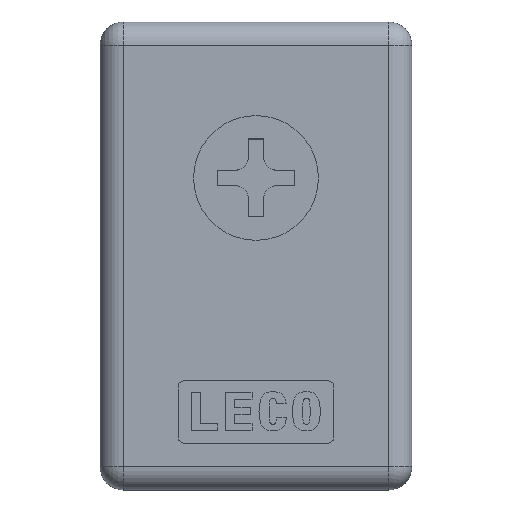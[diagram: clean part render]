
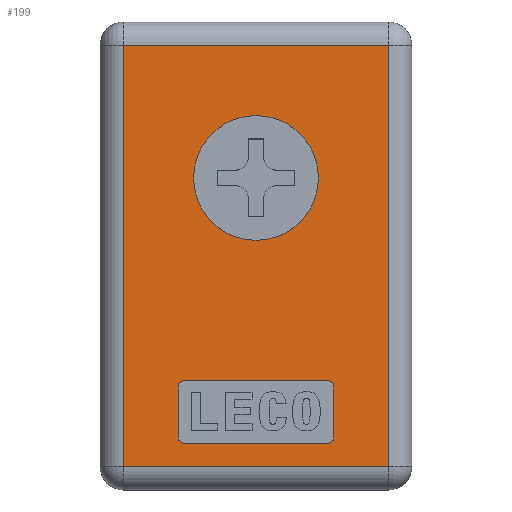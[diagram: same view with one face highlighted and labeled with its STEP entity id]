
A CAD part, top view. The second image highlights one B-rep face of the part: STEP entity #199.
In plain terms, the highlighted planar face has unit normal (0, 0, 1).
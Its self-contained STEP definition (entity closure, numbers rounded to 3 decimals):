
#199=ADVANCED_FACE('',(#563,#564,#565),#566,.F.);
#563=FACE_BOUND('',#1100,.T.);
#564=FACE_BOUND('',#1101,.T.);
#565=FACE_OUTER_BOUND('',#1102,.T.);
#566=PLANE('',#1103);
#1100=EDGE_LOOP('',(#1642,#1643,#1644,#1645,#1646,#1647,#1648,#1649));
#1101=EDGE_LOOP('',(#1650));
#1102=EDGE_LOOP('',(#1651,#1652,#1653,#1654));
#1103=AXIS2_PLACEMENT_3D('',#1655,#1656,#1657);
#1642=ORIENTED_EDGE('',*,*,#3255,.F.);
#1643=ORIENTED_EDGE('',*,*,#3256,.F.);
#1644=ORIENTED_EDGE('',*,*,#3257,.F.);
#1645=ORIENTED_EDGE('',*,*,#3258,.F.);
#1646=ORIENTED_EDGE('',*,*,#3259,.F.);
#1647=ORIENTED_EDGE('',*,*,#3260,.F.);
#1648=ORIENTED_EDGE('',*,*,#3261,.F.);
#1649=ORIENTED_EDGE('',*,*,#3262,.F.);
#1650=ORIENTED_EDGE('',*,*,#3263,.T.);
#1651=ORIENTED_EDGE('',*,*,#3264,.F.);
#1652=ORIENTED_EDGE('',*,*,#3265,.T.);
#1653=ORIENTED_EDGE('',*,*,#3266,.T.);
#1654=ORIENTED_EDGE('',*,*,#3267,.F.);
#1655=CARTESIAN_POINT('',(32.077,28.5,3.));
#1656=DIRECTION('',(0.0,0.0,-1.0));
#1657=DIRECTION('',(1.0,0.0,0.0));
#3255=EDGE_CURVE('',#3900,#3901,#3902,.T.);
#3256=EDGE_CURVE('',#3903,#3900,#3904,.T.);
#3257=EDGE_CURVE('',#3905,#3903,#3906,.T.);
#3258=EDGE_CURVE('',#3907,#3905,#3908,.T.);
#3259=EDGE_CURVE('',#3909,#3907,#3910,.T.);
#3260=EDGE_CURVE('',#3911,#3909,#3912,.T.);
#3261=EDGE_CURVE('',#3913,#3911,#3914,.T.);
#3262=EDGE_CURVE('',#3901,#3913,#3915,.T.);
#3263=EDGE_CURVE('',#3916,#3916,#3917,.T.);
#3264=EDGE_CURVE('',#3918,#3919,#3920,.T.);
#3265=EDGE_CURVE('',#3918,#3921,#3922,.T.);
#3266=EDGE_CURVE('',#3921,#3923,#3924,.T.);
#3267=EDGE_CURVE('',#3919,#3923,#3925,.T.);
#3900=VERTEX_POINT('',#4845);
#3901=VERTEX_POINT('',#4846);
#3902=LINE('',#4847,#4848);
#3903=VERTEX_POINT('',#4849);
#3904=CIRCLE('',#4850,0.4);
#3905=VERTEX_POINT('',#4851);
#3906=LINE('',#4852,#4853);
#3907=VERTEX_POINT('',#4854);
#3908=CIRCLE('',#4855,0.4);
#3909=VERTEX_POINT('',#4856);
#3910=LINE('',#4857,#4858);
#3911=VERTEX_POINT('',#4859);
#3912=CIRCLE('',#4860,0.4);
#3913=VERTEX_POINT('',#4861);
#3914=LINE('',#4862,#4863);
#3915=CIRCLE('',#4864,0.4);
#3916=VERTEX_POINT('',#4865);
#3917=CIRCLE('',#4866,4.0);
#3918=VERTEX_POINT('',#4867);
#3919=VERTEX_POINT('',#4868);
#3920=LINE('',#4869,#4870);
#3921=VERTEX_POINT('',#4871);
#3922=LINE('',#4872,#4873);
#3923=VERTEX_POINT('',#4874);
#3924=LINE('',#4875,#4876);
#3925=LINE('',#4877,#4878);
#4845=CARTESIAN_POINT('',(5.4,3.,3.));
#4846=CARTESIAN_POINT('',(14.6,3.,3.));
#4847=CARTESIAN_POINT('',(5.4,3.,3.));
#4848=VECTOR('',#6210,1.0);
#4849=CARTESIAN_POINT('',(5.,3.4,3.));
#4850=AXIS2_PLACEMENT_3D('',#6211,#6212,#6213);
#4851=CARTESIAN_POINT('',(5.,6.6,3.));
#4852=CARTESIAN_POINT('',(5.,6.6,3.));
#4853=VECTOR('',#6214,1.0);
#4854=CARTESIAN_POINT('',(5.4,7.,3.));
#4855=AXIS2_PLACEMENT_3D('',#6215,#6216,#6217);
#4856=CARTESIAN_POINT('',(14.6,7.,3.));
#4857=CARTESIAN_POINT('',(14.6,7.,3.));
#4858=VECTOR('',#6218,1.0);
#4859=CARTESIAN_POINT('',(15.,6.6,3.));
#4860=AXIS2_PLACEMENT_3D('',#6219,#6220,#6221);
#4861=CARTESIAN_POINT('',(15.,3.4,3.));
#4862=CARTESIAN_POINT('',(15.,3.4,3.));
#4863=VECTOR('',#6222,1.0);
#4864=AXIS2_PLACEMENT_3D('',#6223,#6224,#6225);
#4865=CARTESIAN_POINT('',(6.,20.,3.));
#4866=AXIS2_PLACEMENT_3D('',#6226,#6227,#6228);
#4867=CARTESIAN_POINT('',(18.5,1.5,3.));
#4868=CARTESIAN_POINT('',(1.5,1.5,3.));
#4869=CARTESIAN_POINT('',(32.077,1.5,3.));
#4870=VECTOR('',#6229,1.0);
#4871=CARTESIAN_POINT('',(18.5,28.5,3.));
#4872=CARTESIAN_POINT('',(18.5,-8.983,3.));
#4873=VECTOR('',#6230,1.0);
#4874=CARTESIAN_POINT('',(1.5,28.5,3.));
#4875=CARTESIAN_POINT('',(32.077,28.5,3.));
#4876=VECTOR('',#6231,1.0);
#4877=CARTESIAN_POINT('',(1.5,-8.983,3.));
#4878=VECTOR('',#6232,1.0);
#6210=DIRECTION('',(1.0,0.0,0.0));
#6211=CARTESIAN_POINT('',(5.4,3.4,3.));
#6212=DIRECTION('',(0.0,0.0,1.0));
#6213=DIRECTION('',(1.0,0.0,0.0));
#6214=DIRECTION('',(0.0,-1.0,0.0));
#6215=CARTESIAN_POINT('',(5.4,6.6,3.));
#6216=DIRECTION('',(0.0,0.0,1.0));
#6217=DIRECTION('',(1.0,0.0,0.0));
#6218=DIRECTION('',(-1.0,0.,0.0));
#6219=CARTESIAN_POINT('',(14.6,6.6,3.));
#6220=DIRECTION('',(0.0,0.0,1.0));
#6221=DIRECTION('',(1.0,0.0,0.0));
#6222=DIRECTION('',(0.0,1.0,0.0));
#6223=CARTESIAN_POINT('',(14.6,3.4,3.));
#6224=DIRECTION('',(0.0,0.0,1.0));
#6225=DIRECTION('',(1.0,0.0,0.0));
#6226=CARTESIAN_POINT('',(10.,20.,3.));
#6227=DIRECTION('',(0.0,0.0,-1.0));
#6228=DIRECTION('',(-1.0,0.0,0.0));
#6229=DIRECTION('',(-1.0,0.0,0.0));
#6230=DIRECTION('',(0.0,1.0,0.0));
#6231=DIRECTION('',(-1.0,0.0,0.0));
#6232=DIRECTION('',(0.0,1.0,0.0));
